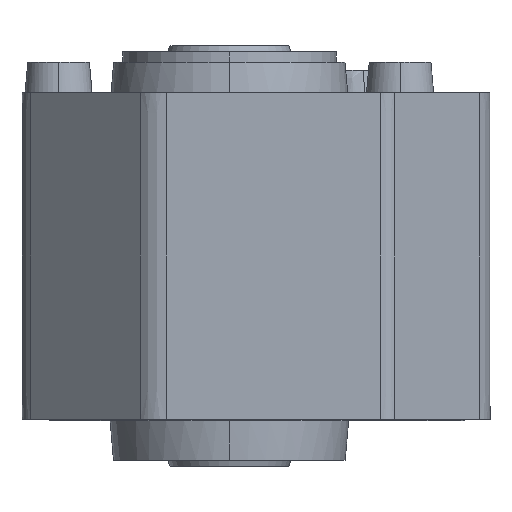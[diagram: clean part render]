
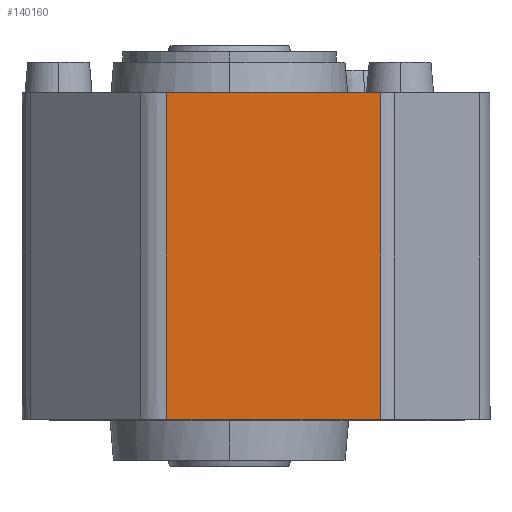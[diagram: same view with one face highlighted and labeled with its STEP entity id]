
A CAD part, left-side view. The second image highlights one B-rep face of the part: STEP entity #140160.
In plain terms, the highlighted planar face has unit normal (-1, 0, 0) as drawn and (0, 1, -0.026) by its records, which use the part's own axes.
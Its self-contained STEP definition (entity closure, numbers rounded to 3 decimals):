
#36300=CARTESIAN_POINT('',(-10.5,723.695,
-125.784));
#36310=VERTEX_POINT('',#36300);
#36340=CARTESIAN_POINT('',(-10.5,723.873,
-119.014));
#36350=DIRECTION('',(0.,-0.026,
-1.));
#36360=VECTOR('',#36350,1.);
#36370=LINE('',#36340,#36360);
#36380=CARTESIAN_POINT('',(-10.5,721.851,
-196.215));
#36390=VERTEX_POINT('',#36380);
#36400=EDGE_CURVE('',#36310,#36390,#36370,.T.);
#113750=CARTESIAN_POINT('',(-117.5,721.851,
-196.215));
#113760=VERTEX_POINT('',#113750);
#113790=CARTESIAN_POINT('',(-117.5,723.873,
-119.014));
#113800=DIRECTION('',(0.,-0.026,
-1.));
#113810=VECTOR('',#113800,1.);
#113820=LINE('',#113790,#113810);
#113830=CARTESIAN_POINT('',(-117.5,723.695,
-125.784));
#113840=VERTEX_POINT('',#113830);
#113850=EDGE_CURVE('',#113840,#113760,#113820,.T.);
#138520=CARTESIAN_POINT('',(-129.5,723.695,
-125.784));
#138530=CARTESIAN_POINT('',(-123.292,723.695,
-125.784));
#138540=CARTESIAN_POINT('',(-116.642,723.695,
-125.784));
#138550=CARTESIAN_POINT('',(-109.55,723.695,
-125.784));
#138560=CARTESIAN_POINT('',(-108.225,723.695,
-125.784));
#138570=CARTESIAN_POINT('',(-102.042,723.695,
-125.784));
#138580=CARTESIAN_POINT('',(-96.3,723.695,
-125.784));
#138590=CARTESIAN_POINT('',(-89.565,723.695,
-125.784));
#138600=CARTESIAN_POINT('',(-81.394,723.695,
-125.784));
#138610=CARTESIAN_POINT('',(-73.002,723.695,
-125.784));
#138620=CARTESIAN_POINT('',(-65.825,723.695,
-125.784));
#138630=CARTESIAN_POINT('',(-65.162,723.695,
-125.784));
#138640=CARTESIAN_POINT('',(-64.721,723.695,
-125.784));
#138650=CARTESIAN_POINT('',(-63.86,723.695,
-125.784));
#138660=CARTESIAN_POINT('',(-63.221,723.695,
-125.784));
#138670=CARTESIAN_POINT('',(-62.471,723.695,
-125.784));
#138680=CARTESIAN_POINT('',(-62.152,723.695,
-125.784));
#138690=CARTESIAN_POINT('',(-55.77,723.695,
-125.784));
#138700=CARTESIAN_POINT('',(-49.283,723.695,
-125.784));
#138710=CARTESIAN_POINT('',(-42.791,723.695,
-125.784));
#138720=CARTESIAN_POINT('',(-36.246,723.695,
-125.784));
#138730=CARTESIAN_POINT('',(-29.882,723.695,
-125.784));
#138740=CARTESIAN_POINT('',(-23.667,723.695,
-125.784));
#138750=CARTESIAN_POINT('',(-23.237,723.695,
-125.784));
#138760=CARTESIAN_POINT('',(-22.412,723.695,
-125.784));
#138770=CARTESIAN_POINT('',(-21.225,723.695,
-125.784));
#138780=CARTESIAN_POINT('',(-0.721,723.695,
-125.784));
#138790=CARTESIAN_POINT('',(19.354,723.695,
-125.784));
#138800=CARTESIAN_POINT('',(39.,723.695,
-125.784));
#138810=(BOUNDED_CURVE() B_SPLINE_CURVE(3,(#138520,#138530,#138540,
#138550,#138560,#138570,#138580,#138590,#138600,#138610,#138620,#138630,
#138640,#138650,#138660,#138670,#138680,#138690,#138700,#138710,#138720,
#138730,#138740,#138750,#138760,#138770,#138780,#138790,#138800),
.UNSPECIFIED.,.F.,.F.) B_SPLINE_CURVE_WITH_KNOTS((4,1,1,1,1,2,1,1,1,1,2,
2,1,1,1,1,1,1,1,1,1,1,1,4),(215.828,234.453,
235.778,237.103,238.428,254.328,
258.635,278.841,279.503,280.166,
280.828,282.747,283.078,283.703,
301.894,302.538,303.182,321.528,
321.628,321.828,322.816,324.103,
325.391,384.328),.UNSPECIFIED.) CURVE() 
GEOMETRIC_REPRESENTATION_ITEM() RATIONAL_B_SPLINE_CURVE((1.,1.,1.,1.,1.,
1.,1.,1.,1.,1.,1.,1.,1.,1.,1.,1.,1.,1.,1.,1.,1.,1.,1.,1.,1.,1.,1.,1.,1.)
) REPRESENTATION_ITEM(''));
#138820=EDGE_CURVE('',#113840,#36310,#138810,.T.);
#139260=CARTESIAN_POINT('',(-123.5,721.851,
-196.215));
#139270=CARTESIAN_POINT('',(-119.283,721.851,
-196.215));
#139280=CARTESIAN_POINT('',(-114.623,721.851,
-196.215));
#139290=CARTESIAN_POINT('',(-109.52,721.851,
-196.215));
#139300=CARTESIAN_POINT('',(-108.19,721.851,
-196.215));
#139310=CARTESIAN_POINT('',(-101.983,721.851,
-196.215));
#139320=CARTESIAN_POINT('',(-96.22,721.851,
-196.215));
#139330=CARTESIAN_POINT('',(-89.459,721.851,
-196.215));
#139340=CARTESIAN_POINT('',(-81.257,721.851,
-196.215));
#139350=CARTESIAN_POINT('',(-72.834,721.851,
-196.215));
#139360=CARTESIAN_POINT('',(-65.63,721.851,
-196.215));
#139370=CARTESIAN_POINT('',(-64.965,721.851,
-196.215));
#139380=CARTESIAN_POINT('',(-64.522,721.851,
-196.215));
#139390=CARTESIAN_POINT('',(-63.954,721.851,
-196.215));
#139400=CARTESIAN_POINT('',(-63.607,721.851,
-196.215));
#139410=CARTESIAN_POINT('',(-62.989,721.851,
-196.215));
#139420=CARTESIAN_POINT('',(-62.508,721.851,
-196.215));
#139430=CARTESIAN_POINT('',(-55.958,721.851,
-196.215));
#139440=CARTESIAN_POINT('',(-49.444,721.851,
-196.215));
#139450=CARTESIAN_POINT('',(-42.924,721.851,
-196.215));
#139460=CARTESIAN_POINT('',(-36.374,721.851,
-196.215));
#139470=CARTESIAN_POINT('',(-29.959,721.851,
-196.215));
#139480=CARTESIAN_POINT('',(-23.389,721.851,
-196.215));
#139490=CARTESIAN_POINT('',(-22.487,721.851,
-196.215));
#139500=CARTESIAN_POINT('',(-21.255,721.851,
-196.215));
#139510=CARTESIAN_POINT('',(-0.806,721.851,
-196.215));
#139520=CARTESIAN_POINT('',(19.213,721.851,
-196.215));
#139530=CARTESIAN_POINT('',(38.8,721.851,
-196.215));
#139540=(BOUNDED_CURVE() B_SPLINE_CURVE(3,(#139260,#139270,#139280,
#139290,#139300,#139310,#139320,#139330,#139340,#139350,#139360,#139370,
#139380,#139390,#139400,#139410,#139420,#139430,#139440,#139450,#139460,
#139470,#139480,#139490,#139500,#139510,#139520,#139530),.UNSPECIFIED.,
.F.,.F.) B_SPLINE_CURVE_WITH_KNOTS((4,1,1,1,1,2,1,1,1,1,2,2,1,1,1,1,1,1,
1,1,1,1,4),(164.047,176.697,178.027,
179.357,180.687,196.647,200.969,
221.252,221.917,222.582,223.247,
224.286,225.102,225.729,243.936,
244.642,245.289,263.587,263.887,
264.999,266.292,267.584,326.347),
.UNSPECIFIED.) CURVE() GEOMETRIC_REPRESENTATION_ITEM() 
RATIONAL_B_SPLINE_CURVE((1.,1.,1.,1.,1.,1.,1.,1.,1.,1.,1.,1.,1.,1.,1.,1.
,1.,1.,1.,1.,1.,1.,1.,1.,1.,1.,1.,1.)) 
REPRESENTATION_ITEM(''));
#139550=EDGE_CURVE('',#113760,#36390,#139540,.T.);
#140050=CARTESIAN_POINT('',(-49.051,723.662,
-127.066));
#140060=DIRECTION('',(0.,-1.,
0.026));
#140070=DIRECTION('',(0.,0.026,
1.));
#140080=AXIS2_PLACEMENT_3D('',#140050,#140060,#140070);
#140090=PLANE('',#140080);
#140100=ORIENTED_EDGE('',*,*,#113850,.F.);
#140110=ORIENTED_EDGE('',*,*,#139550,.F.);
#140120=ORIENTED_EDGE('',*,*,#36400,.T.);
#140130=ORIENTED_EDGE('',*,*,#138820,.T.);
#140140=EDGE_LOOP('',(#140130,#140120,#140110,#140100));
#140150=FACE_OUTER_BOUND('',#140140,.T.);
#140160=ADVANCED_FACE('',(#140150),#140090,.F.);
